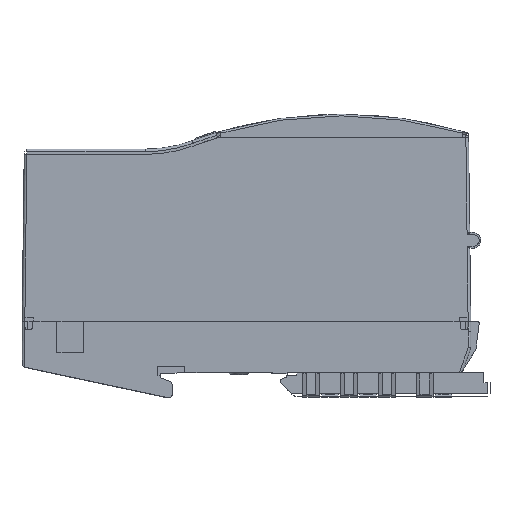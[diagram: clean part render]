
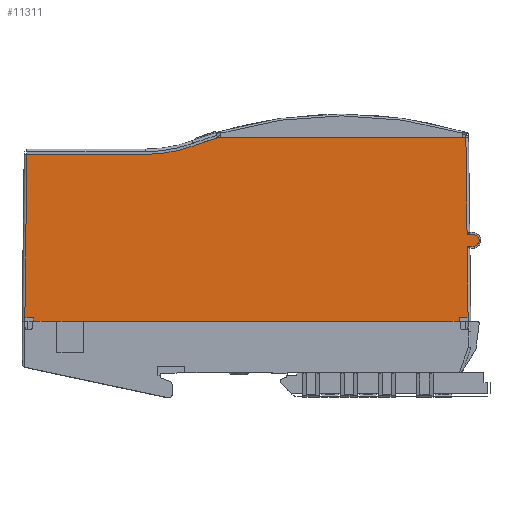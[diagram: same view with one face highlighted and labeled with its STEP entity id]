
A CAD part, top view. The second image highlights one B-rep face of the part: STEP entity #11311.
In plain terms, the highlighted planar face has unit normal (0, 0, 1).
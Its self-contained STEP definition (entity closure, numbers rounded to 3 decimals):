
#6241=DIRECTION('',(-1.,0.,0.));
#6242=VECTOR('',#6241,2.411);
#6243=CARTESIAN_POINT('',(65.984,14.6,12.6));
#6244=LINE('',#6243,#6242);
#7114=CARTESIAN_POINT('',(-55.064,61.31,12.6));
#7449=DIRECTION('',(-1.,0.,0.));
#7450=VECTOR('',#7449,1.675);
#7451=CARTESIAN_POINT('',(69.835,35.5,12.6));
#7452=LINE('',#7451,#7450);
#7456=DIRECTION('',(-0.012,1.,0.));
#7457=VECTOR('',#7456,20.902);
#7458=CARTESIAN_POINT('',(68.415,14.6,12.6));
#7459=LINE('',#7458,#7457);
#7463=DIRECTION('',(-1.,0.,0.));
#7464=VECTOR('',#7463,0.031);
#7465=CARTESIAN_POINT('',(68.415,14.6,12.6));
#7466=LINE('',#7465,#7464);
#7470=DIRECTION('',(0.,1.,0.));
#7471=VECTOR('',#7470,1.);
#7472=CARTESIAN_POINT('',(68.384,14.6,12.6));
#7473=LINE('',#7472,#7471);
#7477=DIRECTION('',(-1.,0.,0.));
#7478=VECTOR('',#7477,2.4);
#7479=CARTESIAN_POINT('',(68.384,15.6,12.6));
#7480=LINE('',#7479,#7478);
#7484=DIRECTION('',(0.,-1.,0.));
#7485=VECTOR('',#7484,1.);
#7486=CARTESIAN_POINT('',(65.984,15.6,12.6));
#7487=LINE('',#7486,#7485);
#7491=DIRECTION('',(1.,0.,0.));
#7492=VECTOR('',#7491,102.738);
#7493=CARTESIAN_POINT('',(-39.164,14.6,12.6));
#7494=LINE('',#7493,#7492);
#7498=DIRECTION('',(-1.,0.,0.));
#7499=VECTOR('',#7498,7.5);
#7500=CARTESIAN_POINT('',(-39.164,14.6,12.6));
#7501=LINE('',#7500,#7499);
#7505=DIRECTION('',(1.,0.,0.));
#7506=VECTOR('',#7505,4.128);
#7507=CARTESIAN_POINT('',(-50.793,14.6,12.6));
#7508=LINE('',#7507,#7506);
#7512=DIRECTION('',(1.,0.,0.));
#7513=VECTOR('',#7512,2.413);
#7514=CARTESIAN_POINT('',(-53.205,14.6,12.6));
#7515=LINE('',#7514,#7513);
#7519=DIRECTION('',(0.,1.,0.));
#7520=VECTOR('',#7519,1.);
#7521=CARTESIAN_POINT('',(-53.205,14.6,12.6));
#7522=LINE('',#7521,#7520);
#7526=DIRECTION('',(-1.,0.,0.));
#7527=VECTOR('',#7526,2.4);
#7528=CARTESIAN_POINT('',(-53.205,15.6,12.6));
#7529=LINE('',#7528,#7527);
#7533=DIRECTION('',(0.,-1.,0.));
#7534=VECTOR('',#7533,1.);
#7535=CARTESIAN_POINT('',(-55.605,15.6,12.6));
#7536=LINE('',#7535,#7534);
#7540=DIRECTION('',(-1.,0.,0.001));
#7541=VECTOR('',#7540,0.029);
#7542=CARTESIAN_POINT('',(-55.605,14.6,12.6));
#7543=LINE('',#7542,#7541);
#7547=DIRECTION('',(-0.012,-1.,0.));
#7548=VECTOR('',#7547,46.714);
#7549=CARTESIAN_POINT('',(-55.064,61.31,12.6));
#7550=LINE('',#7549,#7548);
#7554=DIRECTION('',(1.,0.,0.));
#7555=VECTOR('',#7554,33.093);
#7556=CARTESIAN_POINT('',(-55.064,61.31,12.6));
#7557=LINE('',#7556,#7555);
#7561=CARTESIAN_POINT('',(-21.97,101.06,12.6));
#7562=DIRECTION('',(0.,0.,1.));
#7563=DIRECTION('',(0.,-1.,0.));
#7564=AXIS2_PLACEMENT_3D('',#7561,#7562,#7563);
#7569=CARTESIAN_POINT('',(33.037,-48.388,12.6));
#7570=DIRECTION('',(0.,0.,-1.));
#7571=DIRECTION('',(-0.345,0.938,0.));
#7572=AXIS2_PLACEMENT_3D('',#7569,#7570,#7571);
#7577=DIRECTION('',(1.,0.,0.));
#7578=VECTOR('',#7577,69.329);
#7579=CARTESIAN_POINT('',(-1.542,66.,12.6));
#7580=LINE('',#7579,#7578);
#7584=DIRECTION('',(-0.012,1.,0.));
#7585=VECTOR('',#7584,27.004);
#7586=CARTESIAN_POINT('',(68.117,38.998,12.6));
#7587=LINE('',#7586,#7585);
#7591=DIRECTION('',(1.,0.001,0.));
#7592=VECTOR('',#7591,1.718);
#7593=CARTESIAN_POINT('',(68.117,38.998,12.6));
#7594=LINE('',#7593,#7592);
#7598=CARTESIAN_POINT('',(69.835,38.5,12.6));
#7599=DIRECTION('',(0.,0.,-1.));
#7600=DIRECTION('',(0.,1.,0.));
#7601=AXIS2_PLACEMENT_3D('',#7598,#7599,#7600);
#7606=DIRECTION('',(0.866,-0.5,0.));
#7607=VECTOR('',#7606,0.768);
#7608=CARTESIAN_POINT('',(70.085,38.933,12.6));
#7609=LINE('',#7608,#7607);
#7613=CARTESIAN_POINT('',(70.,37.25,12.6));
#7614=DIRECTION('',(0.,0.,-1.));
#7615=DIRECTION('',(0.5,0.866,0.));
#7616=AXIS2_PLACEMENT_3D('',#7613,#7614,#7615);
#7621=DIRECTION('',(-0.866,-0.5,0.));
#7622=VECTOR('',#7621,0.768);
#7623=CARTESIAN_POINT('',(70.75,35.951,12.6));
#7624=LINE('',#7623,#7622);
#7628=CARTESIAN_POINT('',(69.835,36.,12.6));
#7629=DIRECTION('',(0.,0.,-1.));
#7630=DIRECTION('',(0.5,-0.866,0.));
#7631=AXIS2_PLACEMENT_3D('',#7628,#7629,#7630);
#9982=CARTESIAN_POINT('',(65.984,14.6,12.6));
#9983=VERTEX_POINT('',#9982);
#9984=CARTESIAN_POINT('',(63.574,14.6,12.6));
#9985=VERTEX_POINT('',#9984);
#9986=CARTESIAN_POINT('',(-39.164,14.6,12.6));
#9987=VERTEX_POINT('',#9986);
#9988=CARTESIAN_POINT('',(-46.664,14.6,12.6));
#9989=VERTEX_POINT('',#9988);
#9990=CARTESIAN_POINT('',(-50.793,14.6,12.6));
#9991=VERTEX_POINT('',#9990);
#9992=CARTESIAN_POINT('',(-53.205,14.6,12.6));
#9993=VERTEX_POINT('',#9992);
#10040=CARTESIAN_POINT('',(-53.205,15.6,12.6));
#10041=VERTEX_POINT('',#10040);
#10043=CARTESIAN_POINT('',(-55.635,14.6,
12.6));
#10045=VERTEX_POINT('',#10043);
#10046=CARTESIAN_POINT('',(-55.605,14.6,12.6));
#10047=VERTEX_POINT('',#10046);
#10048=CARTESIAN_POINT('',(-55.605,15.6,12.6));
#10049=VERTEX_POINT('',#10048);
#10101=VERTEX_POINT('',#7114);
#10102=CARTESIAN_POINT('',(-21.97,61.31,12.6));
#10103=VERTEX_POINT('',#10102);
#10223=CARTESIAN_POINT('',(67.787,66.,12.6));
#10224=CARTESIAN_POINT('',(-1.542,66.,12.6));
#10225=VERTEX_POINT('',#10223);
#10226=VERTEX_POINT('',#10224);
#10227=CARTESIAN_POINT('',(-8.24,63.757,
12.6));
#10228=VERTEX_POINT('',#10227);
#10229=CARTESIAN_POINT('',(65.984,15.6,12.6));
#10230=VERTEX_POINT('',#10229);
#10231=CARTESIAN_POINT('',(68.384,15.6,12.6));
#10232=VERTEX_POINT('',#10231);
#10233=CARTESIAN_POINT('',(68.384,14.6,12.6));
#10234=VERTEX_POINT('',#10233);
#10235=CARTESIAN_POINT('',(68.415,14.6,12.6));
#10236=VERTEX_POINT('',#10235);
#10237=CARTESIAN_POINT('',(68.16,35.5,12.6));
#10238=VERTEX_POINT('',#10237);
#10533=CARTESIAN_POINT('',(69.835,35.5,12.6));
#10534=VERTEX_POINT('',#10533);
#10535=CARTESIAN_POINT('',(70.085,35.567,12.6));
#10536=VERTEX_POINT('',#10535);
#10537=CARTESIAN_POINT('',(70.75,35.951,12.6));
#10538=VERTEX_POINT('',#10537);
#10539=CARTESIAN_POINT('',(70.75,38.549,12.6));
#10540=VERTEX_POINT('',#10539);
#10541=CARTESIAN_POINT('',(70.085,38.933,12.6));
#10542=VERTEX_POINT('',#10541);
#10543=CARTESIAN_POINT('',(69.835,39.,12.6));
#10544=VERTEX_POINT('',#10543);
#10545=CARTESIAN_POINT('',(68.117,38.998,12.6));
#10546=VERTEX_POINT('',#10545);
#11256=CARTESIAN_POINT('',(0.,0.,12.6));
#11257=DIRECTION('',(0.,0.,1.));
#11258=DIRECTION('',(1.,0.,0.));
#11259=AXIS2_PLACEMENT_3D('',#11256,#11257,#11258);
#11260=PLANE('',#11259);
#11262=ORIENTED_EDGE('',*,*,#11261,.T.);
#11263=ORIENTED_EDGE('',*,*,#11091,.F.);
#11265=ORIENTED_EDGE('',*,*,#11264,.T.);
#11267=ORIENTED_EDGE('',*,*,#11266,.T.);
#11269=ORIENTED_EDGE('',*,*,#11268,.T.);
#11271=ORIENTED_EDGE('',*,*,#11270,.T.);
#11272=ORIENTED_EDGE('',*,*,#10628,.T.);
#11273=ORIENTED_EDGE('',*,*,#10626,.F.);
#11275=ORIENTED_EDGE('',*,*,#11274,.T.);
#11276=ORIENTED_EDGE('',*,*,#10618,.F.);
#11277=ORIENTED_EDGE('',*,*,#10616,.F.);
#11279=ORIENTED_EDGE('',*,*,#11278,.T.);
#11281=ORIENTED_EDGE('',*,*,#11280,.T.);
#11283=ORIENTED_EDGE('',*,*,#11282,.T.);
#11285=ORIENTED_EDGE('',*,*,#11284,.T.);
#11286=ORIENTED_EDGE('',*,*,#11065,.F.);
#11288=ORIENTED_EDGE('',*,*,#11287,.T.);
#11290=ORIENTED_EDGE('',*,*,#11289,.T.);
#11292=ORIENTED_EDGE('',*,*,#11291,.T.);
#11294=ORIENTED_EDGE('',*,*,#11293,.T.);
#11296=ORIENTED_EDGE('',*,*,#11295,.F.);
#11298=ORIENTED_EDGE('',*,*,#11297,.T.);
#11300=ORIENTED_EDGE('',*,*,#11299,.T.);
#11302=ORIENTED_EDGE('',*,*,#11301,.T.);
#11304=ORIENTED_EDGE('',*,*,#11303,.T.);
#11306=ORIENTED_EDGE('',*,*,#11305,.T.);
#11308=ORIENTED_EDGE('',*,*,#11307,.T.);
#11309=EDGE_LOOP('',(#11262,#11263,#11265,#11267,#11269,#11271,#11272,#11273,
#11275,#11276,#11277,#11279,#11281,#11283,#11285,#11286,#11288,#11290,#11292,
#11294,#11296,#11298,#11300,#11302,#11304,#11306,#11308));
#11310=FACE_OUTER_BOUND('',#11309,.F.);
#11311=ADVANCED_FACE('',(#11310),#11260,.T.);
#7565=CIRCLE('',#7564,39.75);
#7573=CIRCLE('',#7572,119.5);
#7602=CIRCLE('',#7601,0.5);
#7617=CIRCLE('',#7616,1.5);
#7632=CIRCLE('',#7631,0.5);
#10616=EDGE_CURVE('',#9993,#9991,#7515,.T.);
#10618=EDGE_CURVE('',#9991,#9989,#7508,.T.);
#10626=EDGE_CURVE('',#9987,#9985,#7494,.T.);
#10628=EDGE_CURVE('',#9983,#9985,#6244,.T.);
#11065=EDGE_CURVE('',#10101,#10045,#7550,.T.);
#11091=EDGE_CURVE('',#10236,#10238,#7459,.T.);
#11261=EDGE_CURVE('',#10534,#10238,#7452,.T.);
#11264=EDGE_CURVE('',#10236,#10234,#7466,.T.);
#11266=EDGE_CURVE('',#10234,#10232,#7473,.T.);
#11268=EDGE_CURVE('',#10232,#10230,#7480,.T.);
#11270=EDGE_CURVE('',#10230,#9983,#7487,.T.);
#11274=EDGE_CURVE('',#9987,#9989,#7501,.T.);
#11278=EDGE_CURVE('',#9993,#10041,#7522,.T.);
#11280=EDGE_CURVE('',#10041,#10049,#7529,.T.);
#11282=EDGE_CURVE('',#10049,#10047,#7536,.T.);
#11284=EDGE_CURVE('',#10047,#10045,#7543,.T.);
#11287=EDGE_CURVE('',#10101,#10103,#7557,.T.);
#11289=EDGE_CURVE('',#10103,#10228,#7565,.T.);
#11291=EDGE_CURVE('',#10228,#10226,#7573,.T.);
#11293=EDGE_CURVE('',#10226,#10225,#7580,.T.);
#11295=EDGE_CURVE('',#10546,#10225,#7587,.T.);
#11297=EDGE_CURVE('',#10546,#10544,#7594,.T.);
#11299=EDGE_CURVE('',#10544,#10542,#7602,.T.);
#11301=EDGE_CURVE('',#10542,#10540,#7609,.T.);
#11303=EDGE_CURVE('',#10540,#10538,#7617,.T.);
#11305=EDGE_CURVE('',#10538,#10536,#7624,.T.);
#11307=EDGE_CURVE('',#10536,#10534,#7632,.T.);
